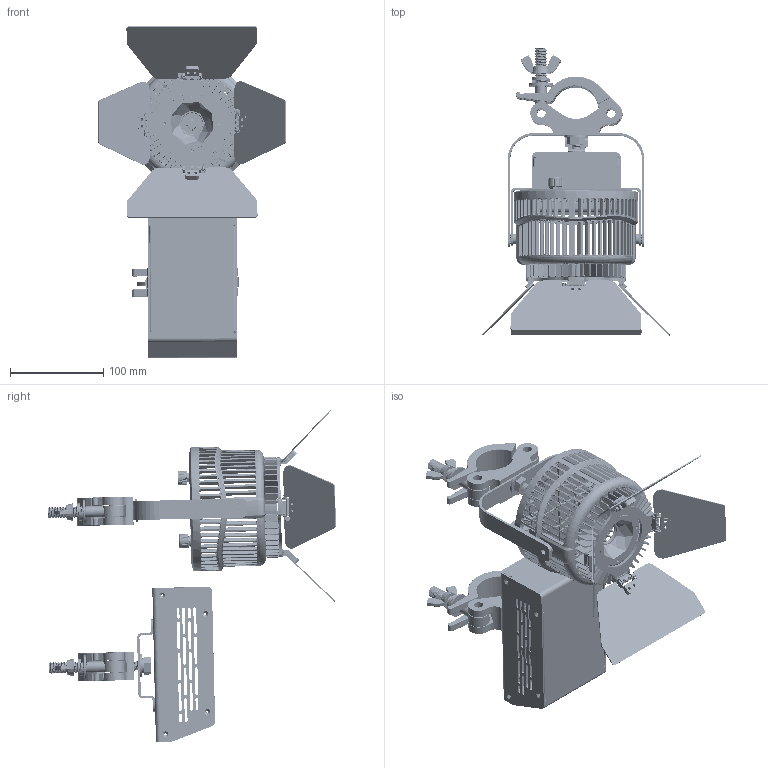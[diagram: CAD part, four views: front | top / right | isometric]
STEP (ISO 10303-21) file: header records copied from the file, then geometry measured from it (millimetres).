
FILE_DESCRIPTION (( 'STEP AP214' ), '1' );
FILE_NAME ('W500BD-CLP-PS.STEP', '2024-02-01T20:09:03', ( '' ), ( '' ), 'SwSTEP 2.0', 'SolidWorks 2022', '' );
FILE_SCHEMA (( 'AUTOMOTIVE_DESIGN' ));
Length unit declared in the file: millimetre
Products named in the file (47): 5021948_A1_Narrow Reflector, OD=54, T=15.6MM___; 5021416_A1_Hex Nut, M10xP1.5, T8 SUS___; W500BD-CLP-PS; 5021287_A2_Toothed Lock Washer M6, OD11 ID6.4 T0.55, SUS___; 5022452-001_A3_Reflector Sink Holder, D108x14.35(H)mm (-002 is White)_-001(Black); 5021926-XXX_A2_KNOB, 18T, OD=14.9, ID=6, L=10MM_C1; 5020897-2010216520_ _Helical Spring Washer Customized___; 62280-231A030_ _SCREW, M10xP1.5 L30mm_Original; 5022424-XXX_A2_250W Power Box Cover (TG&TEX-PS&CLP&TJ TYPE), 165x92x62.5(H)mm___; 5020893-2010525020_ _Flat Washer, M10, ID10.5 OD25.0, T2 SUS 304___; 5020919-XXX_A5_Spacer, Pitch 6.0, Light Shielding, Barn Door___; 5021924_A2_BOLT SCREW, M3.0, L=19.2MM___; 5022340-XXX_A1_Major Leaf of 3 inch Barndoor, L140, W77, T1.1___; 5022693-XXX_A1_Bracket, 98.85x25x17.5, T=2.5mm___; 5022358-1051452003_ _Wave Spring Washer, ID10.5 OD14.5 H2.0 T0.3, Black___; 5120529-XXX_A1_Assembly BOM, W500 Light Engine_Finish; 5022398-XXX_A1_Plug for W Series, 19x10x9.4mm_-002(Black); 62432-11100100140040_ _Hex Nuts Customized, M10 P1.0 S14 T4 W-Zinc___; 5022185_A3_Frame, T=1.5mm AL5052 Black, 24x20x65.15mm___; 5022667-XXX_A1_Holder, Barn Door Frame For W-Series, OD=107, T=3mm___; 5020757-001_A1_VR Nut, Kessil A360 Aquarium Light___; 5020655-012_A4_Hinge, Assembly, Barndoor Video Light, Pitch7.4, Black_01; 5022445-XXX_A1_DC Plug for W Series, D=12mm_-002(Black); 62280-1343006_ _SCREW, PAN HEAD TROX W-THD LOCK, SUS-410, BLACK, M3xL6mm___; 5120561_A1_Frame, T=1.5mm AL5052 Black, 17.5x20x65.15mm___; 5022189_A1_Plate, OD=48, ID=23, T=2.0mm___; 5120531-XXX_A4_Assembly BOM, Light Mounting Type for Yoke_TEX; 62280-1313006_ _SCREW, M3x6mmL, PAN HEAD TORX WITH THREAD LOCK___; 5022341-XXX_A1_Minor Leaf of 3 inch Barndoor, L96, W77, T1.1___; 5010177-XXX_A2_Assembly BOM, Kessil W500_55D-BD-[TEX]; 5120540-XXX_A1_Rear Panel, OD=133, T=13.65mm, W-Series_5120531-001 W500; 62280-1363006_ _SCREW, M3x6mmL, PAN HEAD TORX WITH THREAD LOCK___; 5120625-XXX_A1_Aluminum lamp hook processing square hole_For 5120625-XXX; 5120519-XXX_A3_Assembly BOM, Kessil W500 Power Box_TON(US)-PS; 5022446-XXX_A2_W Series, 15F YOKE PART-A, 140x62x18mm___; 5022447-XXX_A2_W Series, 15F YOKE PART-B, 146.2x122.5x20mm___; 5022348-104_ _Toothed Washer Series, M3___; 5120539-XXX_A1_Housing, OD=133, ID=121, T=78.1mm, For Reflector, Without Logo___; 5120530-XXX_A1_Assembly BOM, W500 Reflector Type_Reflector - 55D-BD; 5022427-XXX_A4_250W Power Box FRAME (TG&TEX&CLP TYPE), 165x95x64mm___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
Assembly tree (67 placements, depth 4):
  W500BD-CLP-PS
    5120519-XXX_A3_Assembly BOM, Kessil W500 Power Box_TON(US)-PS
      5022427-XXX_A4_250W Power Box FRAME (TG&TEX&CLP TYPE), 165x95x64mm___
      5021736-006_A2_Aluminum Hook, M10, Black_For W500-CLP-PS
      62280-231A030_ _SCREW, M10xP1.5 L30mm_Original
      5022693-XXX_A1_Bracket, 98.85x25x17.5, T=2.5mm___
      5020893-2010525020_ _Flat Washer, M10, ID10.5 OD25.0, T2 SUS 304___
      5020897-2010216520_ _Helical Spring Washer Customized___
      5021416_A1_Hex Nut, M10xP1.5, T8 SUS___
      5022424-XXX_A2_250W Power Box Cover (TG&TEX-PS&CLP&TJ TYPE), 165x92x62.5(H)mm___
    5010177-XXX_A2_Assembly BOM, Kessil W500_55D-BD-[TEX]
      5120529-XXX_A1_Assembly BOM, W500 Light Engine_Finish
        5120540-XXX_A1_Rear Panel, OD=133, T=13.65mm, W-Series_5120531-001 W500
        5022398-XXX_A1_Plug for W Series, 19x10x9.4mm_-002(Black)
        5022445-XXX_A1_DC Plug for W Series, D=12mm_-002(Black)
        5022185_A3_Frame, T=1.5mm AL5052 Black, 24x20x65.15mm___
        5120561_A1_Frame, T=1.5mm AL5052 Black, 17.5x20x65.15mm___
        5022348-104_ _Toothed Washer Series, M3___  x2
        62280-1313006_ _SCREW, M3x6mmL, PAN HEAD TORX WITH THREAD LOCK___  x4
        5021924_A2_BOLT SCREW, M3.0, L=19.2MM___  x2
        5020757-002_A2_VR Washer, Kessil A360 Aquarium Light___  x2
        5020757-001_A1_VR Nut, Kessil A360 Aquarium Light___  x2
        5021926-XXX_A2_KNOB, 18T, OD=14.9, ID=6, L=10MM_C1  x2
        62280-1363006_ _SCREW, M3x6mmL, PAN HEAD TORX WITH THREAD LOCK___  x2
      5120530-XXX_A1_Assembly BOM, W500 Reflector Type_Reflector - 55D-BD
        5120539-XXX_A1_Housing, OD=133, ID=121, T=78.1mm, For Reflector, Without Logo___
        5022189_A1_Plate, OD=48, ID=23, T=2.0mm___
        62280-1343006_ _SCREW, PAN HEAD TROX W-THD LOCK, SUS-410, BLACK, M3xL6mm___  x2
        5022452-001_A3_Reflector Sink Holder, D108x14.35(H)mm (-002 is White)_-001(Black)
        5021948_A1_Narrow Reflector, OD=54, T=15.6MM___
        5020655-011_A4_Hinge, Assembly, Barndoor Video Light, Pitch6.0, Black_01  x2
        5020919-XXX_A5_Spacer, Pitch 6.0, Light Shielding, Barn Door___  x2
        5022341-XXX_A1_Minor Leaf of 3 inch Barndoor, L96, W77, T1.1___  x2
        5020655-012_A4_Hinge, Assembly, Barndoor Video Light, Pitch7.4, Black_01  x2
        5020921-XXX_A5_Spacer, Pitch 7.4, Light Shielding, Barn Door___  x2
        5020734-XXX_A3_Spacer, Hinge, Barn Door_-001_Black  x2
        5022340-XXX_A1_Major Leaf of 3 inch Barndoor, L140, W77, T1.1___  x2
        5022667-XXX_A1_Holder, Barn Door Frame For W-Series, OD=107, T=3mm___
      5120531-XXX_A4_Assembly BOM, Light Mounting Type for Yoke_TEX
        5022447-XXX_A2_W Series, 15F YOKE PART-B, 146.2x122.5x20mm___
        5022446-XXX_A2_W Series, 15F YOKE PART-A, 140x62x18mm___
        5021287_A2_Toothed Lock Washer M6, OD11 ID6.4 T0.55, SUS___  x2
        5022358-1051452003_ _Wave Spring Washer, ID10.5 OD14.5 H2.0 T0.3, Black___
        5020893-3211020005_ _Flat Washer Customized, Nylon Black, ID11mm OD20mm T0.5mm___  x2
        62432-11100100140040_ _Hex Nuts Customized, M10 P1.0 S14 T4 W-Zinc___
        5120625-XXX_A1_Aluminum lamp hook processing square hole_For 5120625-XXX
        5020893-2010525020_ _Flat Washer, M10, ID10.5 OD25.0, T2 SUS 304___
        5021416_A1_Hex Nut, M10xP1.5, T8 SUS___
        62280-647A030_ _SCREW, M10xP1.5 L30mm_Original
Bounding box: 201.49 x 308.76 x 356.17 mm (x, y, z)
Volume: 524449 mm3; surface area: 499413.6 mm2
Topology: 101 solids, 101 shells, 8562 faces, 23318 edges, 14834 vertices
Faces by surface type: cylinder 3264, plane 2995, bspline 1168, cone 600, torus 491, sphere 44
Entity records: 346632 total; most frequent: CARTESIAN_POINT 160609, ORIENTED_EDGE 39492, DIRECTION 32747, EDGE_CURVE 19746, VERTEX_POINT 12558, AXIS2_PLACEMENT_3D 12168, VECTOR 8411, LINE 8411
